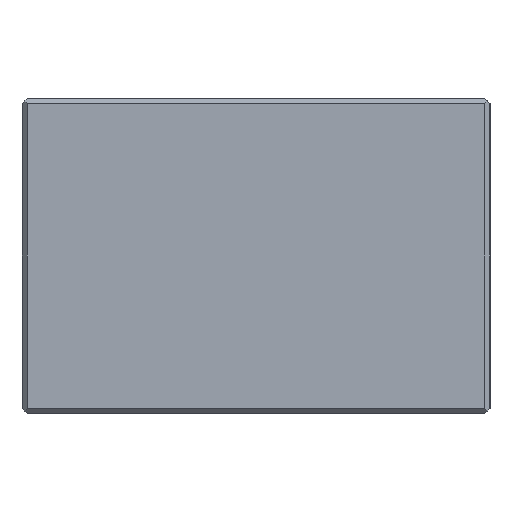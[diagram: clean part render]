
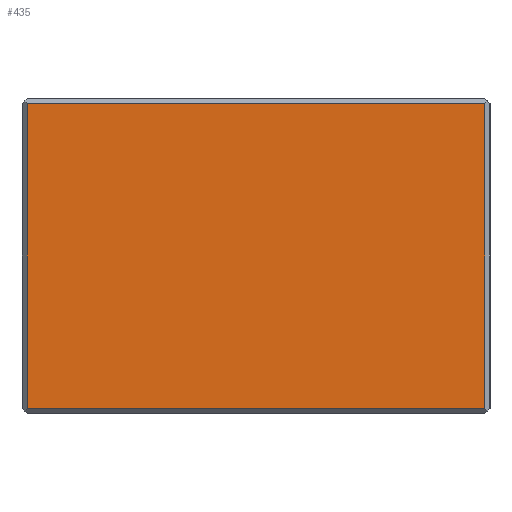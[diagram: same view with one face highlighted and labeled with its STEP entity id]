
A CAD part, left-side view. The second image highlights one B-rep face of the part: STEP entity #435.
In plain terms, the highlighted planar face has unit normal (-1, 0, 0).
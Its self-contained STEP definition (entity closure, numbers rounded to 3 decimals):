
#108=ORIENTED_EDGE('',*,*,#152,.T.);
#109=ORIENTED_EDGE('',*,*,#183,.F.);
#110=ORIENTED_EDGE('',*,*,#195,.F.);
#111=ORIENTED_EDGE('',*,*,#164,.T.);
#152=EDGE_CURVE('',#204,#207,#248,.T.);
#164=EDGE_CURVE('',#217,#204,#260,.T.);
#183=EDGE_CURVE('',#231,#207,#275,.T.);
#195=EDGE_CURVE('',#217,#231,#283,.T.);
#204=VERTEX_POINT('',#609);
#207=VERTEX_POINT('',#615);
#217=VERTEX_POINT('',#641);
#231=VERTEX_POINT('',#676);
#248=LINE('',#616,#296);
#260=LINE('',#640,#308);
#275=LINE('',#677,#323);
#283=LINE('',#700,#331);
#296=VECTOR('',#501,1000.);
#308=VECTOR('',#519,1000.);
#323=VECTOR('',#548,1000.);
#331=VECTOR('',#570,1000.);
#357=EDGE_LOOP('',(#108,#109,#110,#111));
#391=FACE_BOUND('',#357,.T.);
#417=PLANE('',#478);
#435=ADVANCED_FACE('',(#391),#417,.F.);
#478=AXIS2_PLACEMENT_3D('',#707,#579,#580);
#501=DIRECTION('',(0.,-1.,0.));
#519=DIRECTION('',(0.,0.,-1.));
#548=DIRECTION('',(0.,0.,-1.));
#570=DIRECTION('',(0.,-1.,0.));
#579=DIRECTION('',(1.,0.,0.));
#580=DIRECTION('',(0.,0.,-1.));
#609=CARTESIAN_POINT('',(-223.,85.,-28.));
#615=CARTESIAN_POINT('',(-223.,1.,-28.));
#616=CARTESIAN_POINT('',(-223.,86.,-28.));
#640=CARTESIAN_POINT('',(-223.,85.,29.));
#641=CARTESIAN_POINT('',(-223.,85.,28.));
#676=CARTESIAN_POINT('',(-223.,1.,28.));
#677=CARTESIAN_POINT('',(-223.,1.,29.));
#700=CARTESIAN_POINT('',(-223.,86.,28.));
#707=CARTESIAN_POINT('',(-223.,85.,29.));
